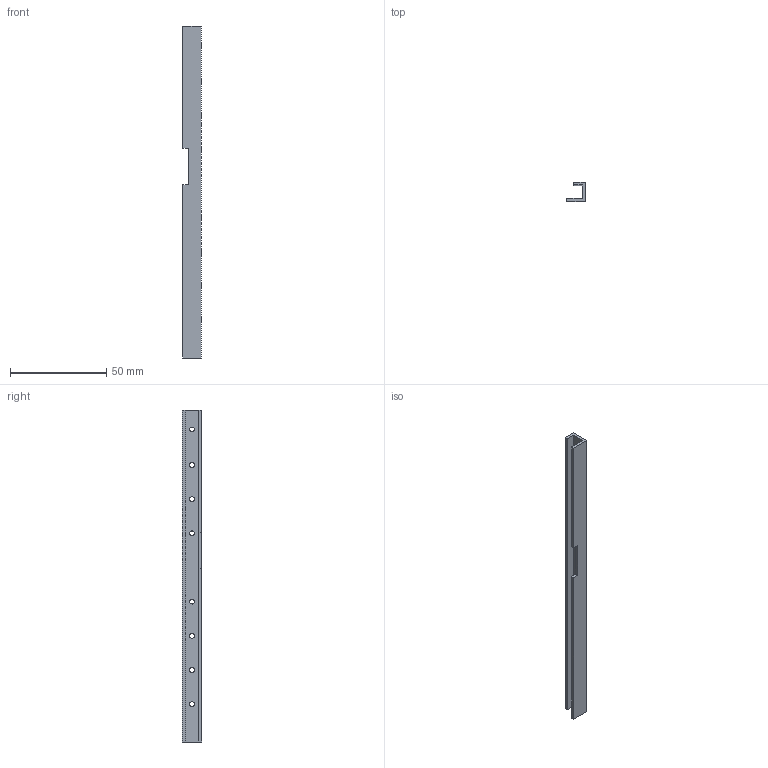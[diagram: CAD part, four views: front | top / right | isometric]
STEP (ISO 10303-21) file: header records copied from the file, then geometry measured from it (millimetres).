
FILE_DESCRIPTION(/* description */ (''),/* implementation_level */ '2;1');
FILE_NAME(/* name */ 'D:\Downloads\Plastikov-v1-2 (2)\STEP\Plastikov v1.0 Right Rail.stp',/* time_stamp */ '2020-03-26T08:42:53-05:00',/* author */ ('johne'),/* organization */ (''),/* preprocessor_version */ 'ST-DEVELOPER v18',/* originating_system */ 'Autodesk Inventor 2020',/* authorisation */ '');
FILE_SCHEMA (('AUTOMOTIVE_DESIGN { 1 0 10303 214 3 1 1 }'));
Length unit declared in the file: inch
Products named in the file (1): Plastikov v1.0 Right Rail
Bounding box: 9.65 x 10 x 172.77 mm (x, y, z)
Volume: 5749.2 mm3; surface area: 8355.6 mm2
Topology: 1 solids, 1 shells, 22 faces, 68 edges, 48 vertices
Faces by surface type: plane 14, cylinder 8
Full cylindrical faces by diameter (mm): 2.5 x8
Entity records: 855 total; most frequent: CARTESIAN_POINT 139, DIRECTION 138, ORIENTED_EDGE 136, EDGE_CURVE 68, VERTEX_POINT 48, AXIS2_PLACEMENT_3D 47, LINE 44, VECTOR 44
